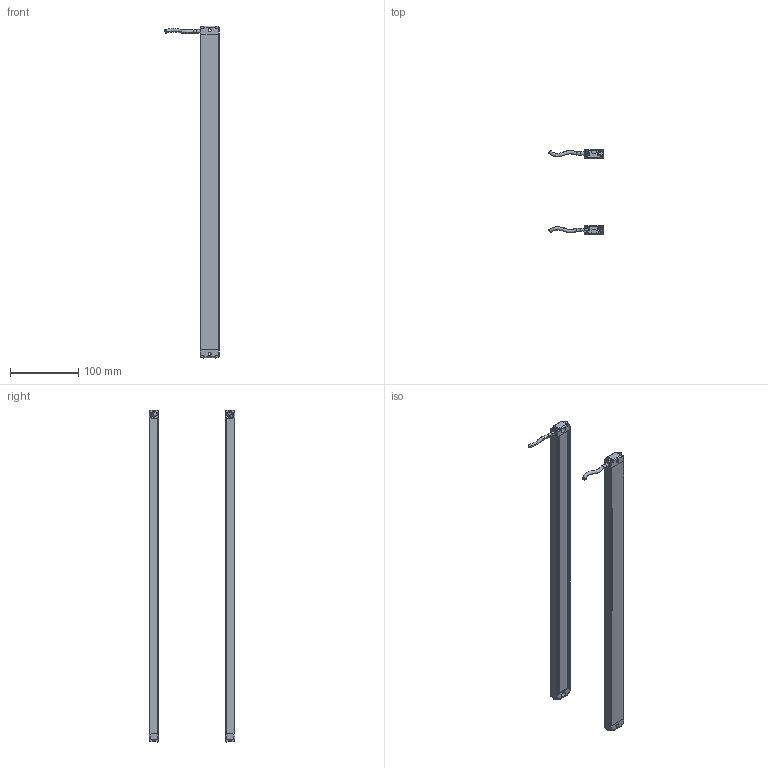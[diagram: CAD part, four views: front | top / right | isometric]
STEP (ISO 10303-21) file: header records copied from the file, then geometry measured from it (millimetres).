
FILE_DESCRIPTION(/* description */ (''),/* implementation_level */ '2;1');
FILE_NAME(/* name */ '4610_13x28w.stp',/* time_stamp */ '2023-12-06T10:54:16+08:00',/* author */ (''),/* organization */ (''),/* preprocessor_version */ 'ST-DEVELOPER v16.7',/* originating_system */ 'SIEMENS PLM Software NX 12.0',/* authorisation */ '');
FILE_SCHEMA (('AP203_CONFIGURATION_CONTROLLED_3D_DESIGN_OF_MECHANICAL_PARTS_AND_ASSEMBLIES_MIM_LF { 1 0 10303 403 2 1 2}'));
Length unit declared in the file: millimetre
Products named in the file (1): 4410_13x28w__stp
Bounding box: 79.6 x 125.02 x 486 mm (x, y, z)
Volume: 142445 mm3; surface area: 189035.4 mm2
Topology: 10 solids, 10 shells, 760 faces, 2158 edges, 1427 vertices
Faces by surface type: plane 356, cylinder 312, torus 52, bspline 40
Entity records: 28300 total; most frequent: CARTESIAN_POINT 8635, ORIENTED_EDGE 4316, DIRECTION 3801, EDGE_CURVE 2158, VERTEX_POINT 1427, AXIS2_PLACEMENT_3D 1293, LINE 1215, VECTOR 1215
